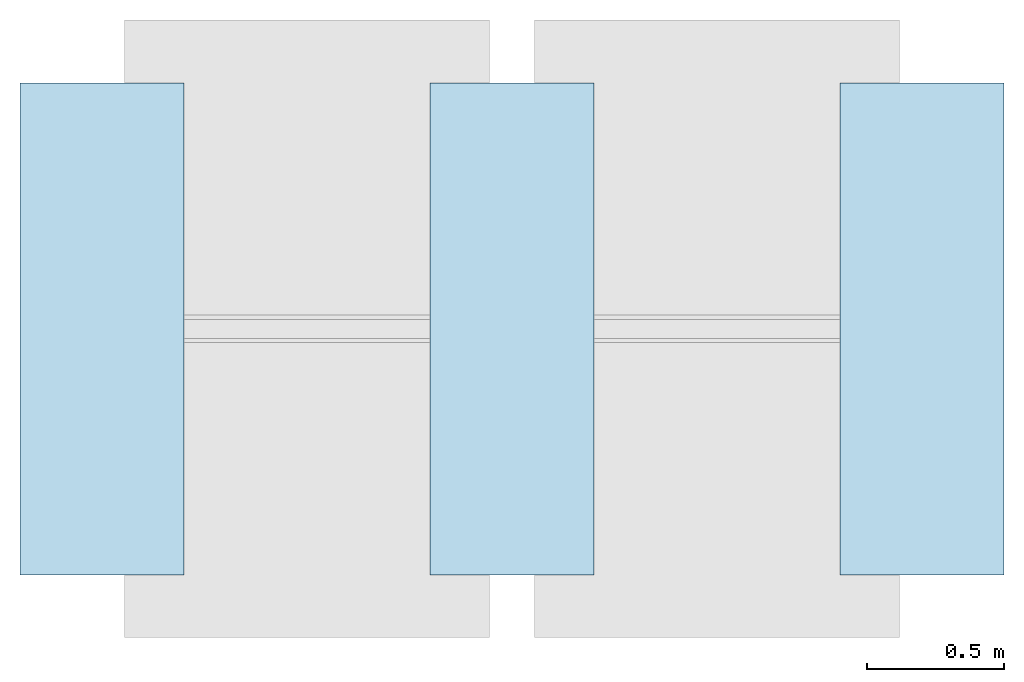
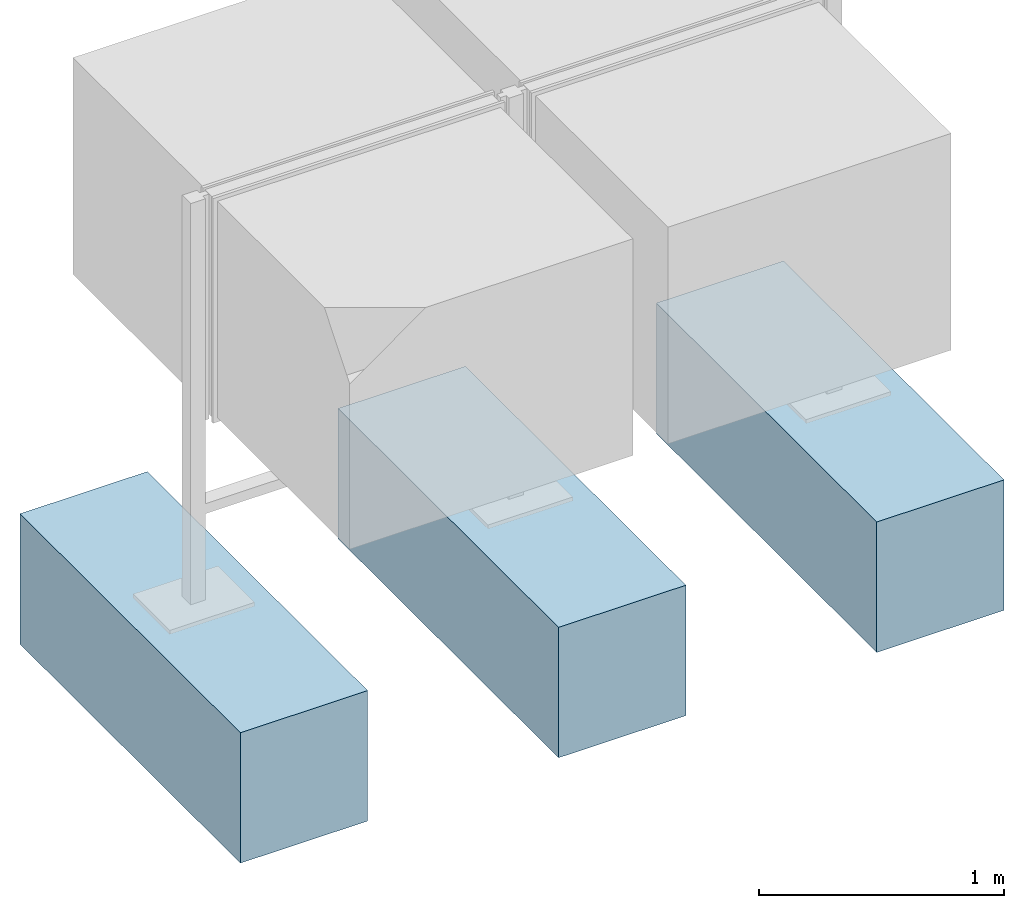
# One storey, incomplete: 3 slabs.
"""IFC4 building model written with IfcOpenShell, lengths in metres."""

from ifc_helpers import new_model, entity, si_unit, converted_unit, direction, frame, frame_2d, origin, origin_2d_with_axis, place, context, subcontext, project, spatial, rectangle, extrude, material, type_object, element, save


model = new_model("IFC4")

# Units and contexts
model_context = context("Model", 3, precision=1e-05, world=origin(), true_north=direction((6.123031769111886e-17, 1.0)))
body_context = subcontext(model_context, "Body", "Model", "MODEL_VIEW")
ifc_project = project(units=[si_unit("LENGTHUNIT", "METRE"), converted_unit("PLANEANGLEUNIT", "DEGREE", entity("IfcPlaneAngleMeasure", 0.017453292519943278), si_unit("PLANEANGLEUNIT", "RADIAN"), dimensions=[0, 0, 0, 0, 0, 0, 0]), si_unit("AREAUNIT", "SQUARE_METRE")], contexts=[model_context])

# Site, building, storey
site_placement = place(None, origin())
site = spatial("IfcSite", under=ifc_project, at=site_placement, Name="Default", CompositionType="ELEMENT")
building_placement = place(site_placement, origin())
building = spatial("IfcBuilding", under=site, at=building_placement, CompositionType="ELEMENT")
storey_placement = place(building_placement, origin())
storey = spatial("IfcBuildingStorey", under=building, at=storey_placement, Name="DB_Bezugshoehe_max_Bahnsteigkante", CompositionType="ELEMENT", Elevation=0.0)

# Slabs
ifc_material = material(Name="DB_Ortbeton", Category="DB_Beton")
slab_type = type_object("IfcSlabType", Name="DB_Vitrine_Fundament:DB_Vitrine_Fundament", PredefinedType="BASESLAB", material=ifc_material)
slab_1_placement = place(storey_placement, origin())
element("IfcSlab", 1, at=slab_1_placement, inside=storey, type_object=slab_type, Name="DB_Vitrine_Fundament:DB_Vitrine_Fundament", ObjectType="DB_Vitrine_Fundament:DB_Vitrine_Fundament", PredefinedType="BASESLAB", context=body_context, shape_type="SweptSolid", body=[
    extrude(rectangle(XDim=1.8, YDim=0.5999999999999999, at=origin_2d_with_axis()), frame((0.0, 0.0, 0.04999999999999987), z_axis=(0.0, 0.0, 1.0), x_axis=(0.0, 1.0, 0.0)), (0.0, 0.0, 1.0), 0.5999999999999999),
    extrude(rectangle(XDim=0.5999999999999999, YDim=1.7999999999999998, at=origin_2d_with_axis()), frame((0.0, 0.0, 0.0), z_axis=(0.0, 0.0, 1.0), x_axis=(-1.0, 0.0, 0.0)), (0.0, 0.0, 1.0), 0.04999999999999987),
])
slab_2_placement = place(storey_placement, origin())
element("IfcSlab", 2, at=slab_2_placement, inside=storey, type_object=slab_type, Name="DB_Vitrine_Fundament:DB_Vitrine_Fundament", ObjectType="DB_Vitrine_Fundament:DB_Vitrine_Fundament", PredefinedType="BASESLAB", context=body_context, shape_type="SweptSolid", body=[
    extrude(rectangle(XDim=1.8, YDim=0.5999999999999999, at=frame_2d((0.0, -8.326672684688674e-17), x_axis=(1.0, 0.0))), frame((1.5000000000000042, 0.0, 0.04999999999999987), z_axis=(0.0, 0.0, 1.0), x_axis=(0.0, 1.0, 0.0)), (0.0, 0.0, 1.0), 0.5999999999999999),
    extrude(rectangle(XDim=0.5999999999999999, YDim=1.7999999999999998, at=frame_2d((-1.3877787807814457e-16, 0.0), x_axis=(1.0, 0.0))), frame((1.500000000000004, 0.0, 0.0), z_axis=(0.0, 0.0, 1.0), x_axis=(-1.0, 0.0, 0.0)), (0.0, 0.0, 1.0), 0.04999999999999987),
])
slab_3_placement = place(storey_placement, origin())
element("IfcSlab", 3, at=slab_3_placement, inside=storey, type_object=slab_type, Name="DB_Vitrine_Fundament:DB_Vitrine_Fundament", ObjectType="DB_Vitrine_Fundament:DB_Vitrine_Fundament", PredefinedType="BASESLAB", context=body_context, shape_type="SweptSolid", body=[
    extrude(rectangle(XDim=1.8, YDim=0.6000000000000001, at=origin_2d_with_axis()), frame((3.0, 0.0, 0.04999999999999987), z_axis=(0.0, 0.0, 1.0), x_axis=(0.0, 1.0, 0.0)), (0.0, 0.0, 1.0), 0.5999999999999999),
    extrude(rectangle(XDim=0.6000000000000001, YDim=1.7999999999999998, at=origin_2d_with_axis()), frame((3.0, 0.0, 0.0), z_axis=(0.0, 0.0, 1.0), x_axis=(-1.0, 0.0, 0.0)), (0.0, 0.0, 1.0), 0.04999999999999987),
])

save(model, "model.ifc")
